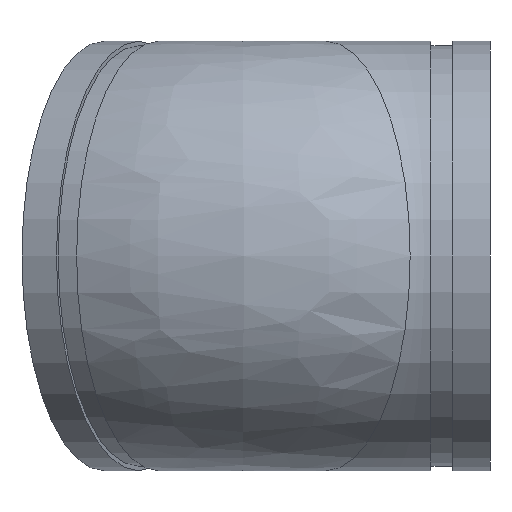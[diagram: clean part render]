
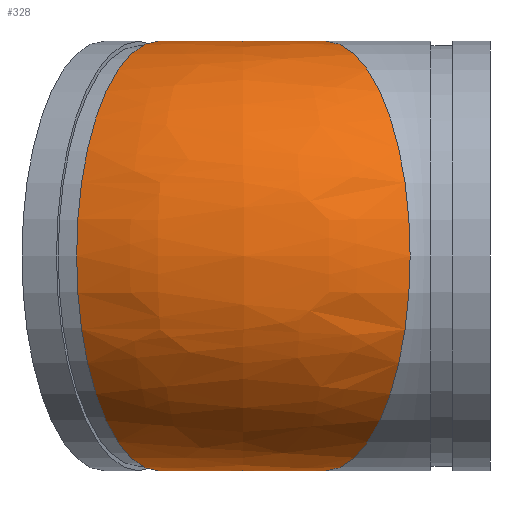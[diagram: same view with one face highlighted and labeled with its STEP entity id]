
A CAD part, left-side view. The second image highlights one B-rep face of the part: STEP entity #328.
In plain terms, the highlighted free-form (B-spline) face has degree [2, 2] with [9, 3] control points.
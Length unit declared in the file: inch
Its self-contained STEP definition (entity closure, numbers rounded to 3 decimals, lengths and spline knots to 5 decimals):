
#63=(
BOUNDED_SURFACE()
B_SPLINE_SURFACE(2,2,((#592,#593,#594),(#595,#596,#597),(#598,#599,#600),
(#601,#602,#603),(#604,#605,#606),(#607,#608,#609),(#610,#611,#612),(#613,
#614,#615),(#616,#617,#618)),.UNSPECIFIED.,.T.,.F.,.F.)
B_SPLINE_SURFACE_WITH_KNOTS((3,2,2,2,3),(3,3),(-3.14159,-1.5708,
0.,1.5708,3.14159),(-0.4049,0.3927),
 .UNSPECIFIED.)
GEOMETRIC_REPRESENTATION_ITEM()
RATIONAL_B_SPLINE_SURFACE(((1.,0.922,1.),(0.707,
0.652,0.707),(1.,0.922,1.),(0.707,
0.652,0.707),(1.,0.922,1.),(0.707,
0.652,0.707),(1.,0.922,1.),(0.707,
0.652,0.707),(1.,0.922,1.)))
REPRESENTATION_ITEM('')
SURFACE()
);
#77=FACE_OUTER_BOUND('',#95,.T.);
#95=EDGE_LOOP('',(#238,#239,#240));
#115=CIRCLE('',#366,4.3125);
#127=CIRCLE('',#380,4.3125);
#128=CIRCLE('',#381,4.3125);
#150=VERTEX_POINT('',#568);
#160=VERTEX_POINT('',#619);
#181=EDGE_CURVE('',#150,#150,#115,.T.);
#193=EDGE_CURVE('',#150,#160,#127,.T.);
#194=EDGE_CURVE('',#160,#150,#128,.T.);
#238=ORIENTED_EDGE('',*,*,#193,.T.);
#239=ORIENTED_EDGE('',*,*,#194,.T.);
#240=ORIENTED_EDGE('',*,*,#181,.F.);
#328=ADVANCED_FACE('',(#77),#63,.F.);
#366=AXIS2_PLACEMENT_3D('',#569,#437,#438);
#380=AXIS2_PLACEMENT_3D('',#620,#465,#466);
#381=AXIS2_PLACEMENT_3D('',#621,#467,#468);
#437=DIRECTION('center_axis',(0.383,0.924,0.));
#438=DIRECTION('ref_axis',(-0.924,0.383,0.));
#465=DIRECTION('center_axis',(-0.394,0.919,0.));
#466=DIRECTION('ref_axis',(-0.919,-0.394,0.));
#467=DIRECTION('center_axis',(-0.394,0.919,0.));
#468=DIRECTION('ref_axis',(-0.919,-0.394,0.));
#568=CARTESIAN_POINT('',(3.5296,5.00211,0.));
#569=CARTESIAN_POINT('Origin',(-0.45463,6.65243,0.));
#592=CARTESIAN_POINT('Ctrl Pts',(3.5296,5.00211,0.));
#593=CARTESIAN_POINT('Ctrl Pts',(3.5296,5.00211,0.));
#594=CARTESIAN_POINT('Ctrl Pts',(3.5296,5.00211,0.));
#595=CARTESIAN_POINT('Ctrl Pts',(3.5296,5.00211,4.3125));
#596=CARTESIAN_POINT('Ctrl Pts',(3.5296,5.00211,4.3125));
#597=CARTESIAN_POINT('Ctrl Pts',(3.5296,5.00211,4.3125));
#598=CARTESIAN_POINT('Ctrl Pts',(-0.43419,3.30329,4.3125));
#599=CARTESIAN_POINT('Ctrl Pts',(-1.15004,4.97355,4.3125));
#600=CARTESIAN_POINT('Ctrl Pts',(-0.45463,6.65243,4.3125));
#601=CARTESIAN_POINT('Ctrl Pts',(-4.39799,1.60447,4.3125));
#602=CARTESIAN_POINT('Ctrl Pts',(-5.82969,4.945,4.3125));
#603=CARTESIAN_POINT('Ctrl Pts',(-4.43886,8.30275,4.3125));
#604=CARTESIAN_POINT('Ctrl Pts',(-4.39799,1.60447,0.));
#605=CARTESIAN_POINT('Ctrl Pts',(-5.82969,4.945,0.));
#606=CARTESIAN_POINT('Ctrl Pts',(-4.43886,8.30275,0.));
#607=CARTESIAN_POINT('Ctrl Pts',(-4.39799,1.60447,-4.3125));
#608=CARTESIAN_POINT('Ctrl Pts',(-5.82969,4.945,-4.3125));
#609=CARTESIAN_POINT('Ctrl Pts',(-4.43886,8.30275,-4.3125));
#610=CARTESIAN_POINT('Ctrl Pts',(-0.43419,3.30329,-4.3125));
#611=CARTESIAN_POINT('Ctrl Pts',(-1.15004,4.97355,-4.3125));
#612=CARTESIAN_POINT('Ctrl Pts',(-0.45463,6.65243,-4.3125));
#613=CARTESIAN_POINT('Ctrl Pts',(3.5296,5.00211,-4.3125));
#614=CARTESIAN_POINT('Ctrl Pts',(3.5296,5.00211,-4.3125));
#615=CARTESIAN_POINT('Ctrl Pts',(3.5296,5.00211,-4.3125));
#616=CARTESIAN_POINT('Ctrl Pts',(3.5296,5.00211,0.));
#617=CARTESIAN_POINT('Ctrl Pts',(3.5296,5.00211,0.));
#618=CARTESIAN_POINT('Ctrl Pts',(3.5296,5.00211,0.));
#619=CARTESIAN_POINT('',(-4.39799,1.60447,0.));
#620=CARTESIAN_POINT('Origin',(-0.43419,3.30329,0.));
#621=CARTESIAN_POINT('Origin',(-0.43419,3.30329,0.));
